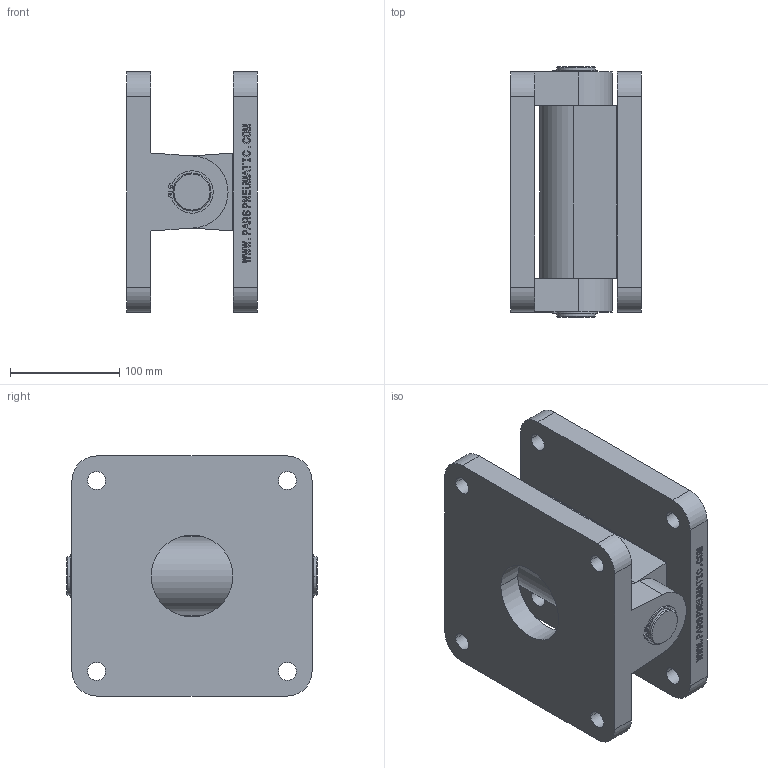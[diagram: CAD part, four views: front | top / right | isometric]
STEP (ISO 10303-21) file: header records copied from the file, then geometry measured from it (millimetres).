
FILE_DESCRIPTION(('CATIA V5 STEP Exchange'),'2;1');
FILE_NAME('D:\stp file for catalog\BAST-CAB\CAB 200.stp','2018-06-13T06:15:57+00:00',('none'),('none'),'CATIA Version 5-6 Release 2016','CATIA V5 STEP AP203','none');
FILE_SCHEMA(('CONFIG_CONTROL_DESIGN'));
Length unit declared in the file: millimetre
Products named in the file (1): PNC-CAB 200
Assembly tree (6 placements, depth 2):
  PNC-CAB 200
    #57
    #13926
    #14932
    #14955
    #15424
    #16054
Bounding box: 120 x 230 x 220 mm (x, y, z)
Volume: 2937179.4 mm3; surface area: 328689.8 mm2
Topology: 5 solids, 5 shells, 547 faces, 1511 edges, 1006 vertices
Faces by surface type: plane 466, cylinder 77, cone 4
Entity records: 16661 total; most frequent: ORIENTED_EDGE 3022, CARTESIAN_POINT 2980, DIRECTION 2365, EDGE_CURVE 1511, VECTOR 1353, LINE 1353, VERTEX_POINT 1006, EDGE_LOOP 611
